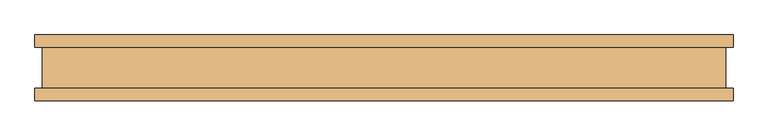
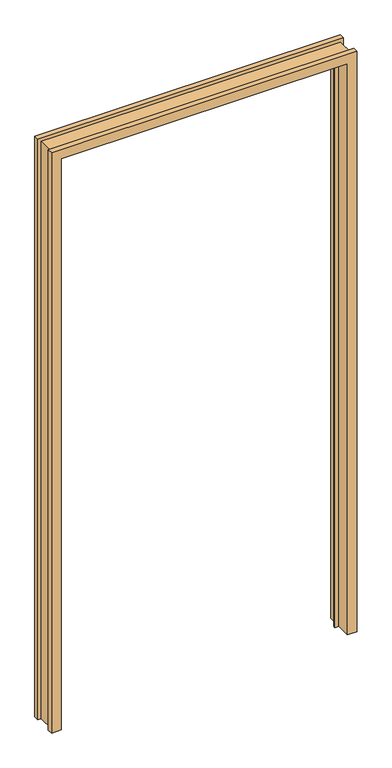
"""IFC4 building model written with IfcOpenShell, lengths in millimetres: door geometry, Frame-Solid_Hinged-AIH-Teknion-FHJA-Jamb_Kit_Single-R2022 : FHJA."""

from ifc_helpers import new_model, si_unit, origin, place, context, project, spatial, faceted_brep, source, transform, mapped, element, save


def door_b1fd58b7(model_context):
    return source(origin(), model_context, "Body", "Brep", [
        faceted_brep([(-531.6982, -31.447233, 0.0), (-520.7, -31.447233, 0.0), (-520.7, 31.468567, 0.0), (-531.6982, 31.468567, 0.0), (-531.6982, 50.010667, 0.0), (-498.6782, 50.010667, 0.0), (-498.6782, 10.907167, 0.0), (-485.7242, 10.907167, 0.0), (-485.7242, 2.6789063, 0.0), (-498.6782, 2.6789063, 0.0), (-498.6782, -49.989233, 0.0), (-531.6982, -49.989233, 0.0), (-531.6982, -49.989233, 2133.5925997), (-531.6982, -31.447233, 2133.5925997), (-498.6782, -49.989233, 2100.5725997), (498.6782, -49.989233, 2100.5725997), (498.6782, -49.989233, 0.0), (531.6982, -49.989233, 0.0), (531.6982, -49.989233, 2133.5925997), (-498.6782, 2.6789063, 2100.5725997), (-485.7242, 2.6789063, 2087.6185997), (485.7242, 2.6789063, 2087.6185997), (485.7242, 2.6789063, 0.0), (498.6782, 2.6789063, 0.0), (498.6782, 2.6789063, 2100.5725997), (-485.7242, 10.907167, 2087.6185997), (-498.6782, 10.907167, 2100.5725997), (498.6782, 10.907167, 2100.5725997), (498.6782, 10.907167, 0.0), (485.7242, 10.907167, 0.0), (485.7242, 10.907167, 2087.6185997), (-498.6782, 50.010667, 2100.5725997), (-531.6982, 50.010667, 2133.5925997), (531.6982, 50.010667, 2133.5925997), (531.6982, 50.010667, 0.0), (498.6782, 50.010667, 0.0), (498.6782, 50.010667, 2100.5725997), (-531.6982, 31.468567, 2133.5925997), (-520.7, 31.468567, 2122.5943997), (520.7, 31.468567, 2122.5943997), (520.7, 31.468567, 0.0), (531.6982, 31.468567, 0.0), (531.6982, 31.468567, 2133.5925997), (-520.7, -31.447233, 2122.5943997), (531.6982, -31.447233, 2133.5925997), (531.6982, -31.447233, 0.0), (520.7, -31.447233, 0.0), (520.7, -31.447233, 2122.5943997)], [[[0, 1, 2, 3, 4, 5, 6, 7, 8, 9, 10, 11]], [[11, 12, 13, 0]], [[10, 14, 15, 16, 17, 18, 12, 11]], [[9, 19, 14, 10]], [[8, 20, 21, 22, 23, 24, 19, 9]], [[7, 25, 20, 8]], [[6, 26, 27, 28, 29, 30, 25, 7]], [[5, 31, 26, 6]], [[4, 32, 33, 34, 35, 36, 31, 5]], [[3, 37, 32, 4]], [[2, 38, 39, 40, 41, 42, 37, 3]], [[1, 43, 38, 2]], [[0, 13, 44, 45, 46, 47, 43, 1]], [[36, 35, 28, 27]], [[45, 17, 16, 23, 22, 29, 28, 35, 34, 41, 40, 46]], [[47, 46, 40, 39]], [[30, 29, 22, 21]], [[24, 23, 16, 15]], [[18, 17, 45, 44]], [[42, 41, 34, 33]], [[31, 36, 27, 26]], [[43, 47, 39, 38]], [[25, 30, 21, 20]], [[19, 24, 15, 14]], [[12, 18, 44, 13]], [[37, 42, 33, 32]]]),
    ])


if __name__ == "__main__":
    model = new_model("IFC4")
    model_context = context("Model", 3, world=origin())
    ifc_project = project(units=[si_unit("LENGTHUNIT", "METRE", prefix="MILLI")], contexts=[model_context])
    site = spatial("IfcSite", under=ifc_project)
    building = spatial("IfcBuilding", under=site)
    placement = place(None, origin())
    door_shape = door_b1fd58b7(model_context)
    element("IfcDoor", 1, ObjectType="Frame-Solid_Hinged-AIH-Teknion-FHJA-Jamb_Kit_Single-R2022 : FHJA", at=placement, inside=building, context=model_context, shape_type="MappedRepresentation", body=[
        mapped(door_shape, transform((0.0, 0.0, 0.0), x_axis=(1.0, 0.0, 0.0), y_axis=(0.0, 1.0, 0.0), z_axis=(0.0, 0.0, 1.0))),
    ])
    save(model, "model.ifc")
